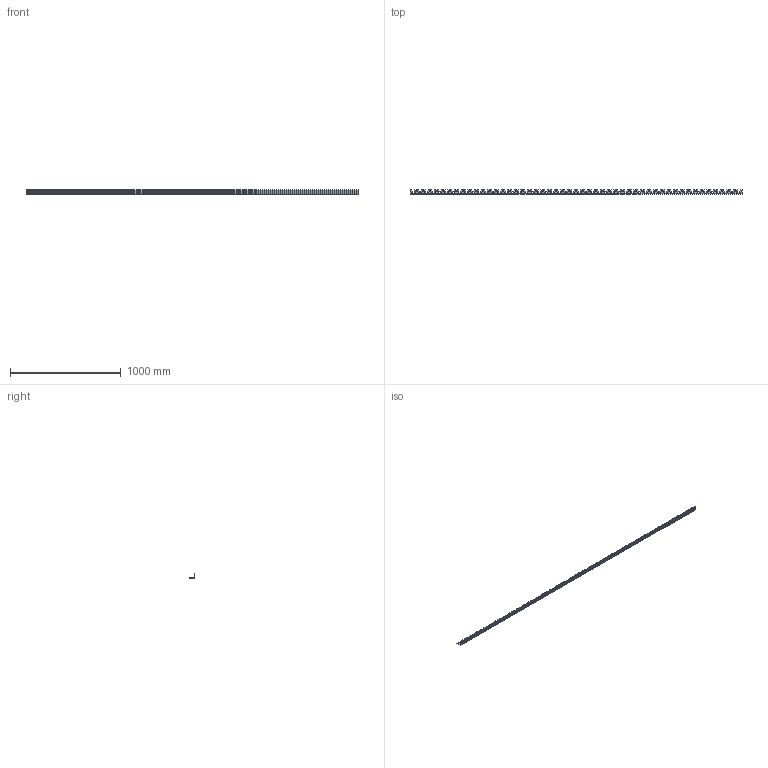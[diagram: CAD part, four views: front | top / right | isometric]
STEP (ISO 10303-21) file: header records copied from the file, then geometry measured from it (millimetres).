
FILE_DESCRIPTION(('STEP AP214'), '1');
FILE_NAME('Áîðäþð_38õ44 L=3ì', '', ('UNSPECIFIED'), ('UNSPECIFIED'), 'ASCON STEP Converter 1.3', 'ASCON Math Kernel', '');
FILE_SCHEMA(('AUTOMOTIVE_DESIGN { 1 0 10303 214 3 1 1}'));
Length unit declared in the file: millimetre
Bounding box: 3000 x 44.2 x 38 mm (x, y, z)
Volume: 596056.3 mm3; surface area: 407429.9 mm2
Topology: 1 solids, 1 shells, 629 faces, 1881 edges, 1254 vertices
Faces by surface type: plane 324, cylinder 305
Full cylindrical faces by diameter (mm): 17 x49
Entity records: 26098 total; most frequent: CARTESIAN_POINT 5066, ORIENTED_EDGE 3664, DIRECTION 2900, EDGE_CURVE 1832, VERTEX_POINT 1254, LINE 1222, VECTOR 1222, AXIS2_PLACEMENT_3D 839
